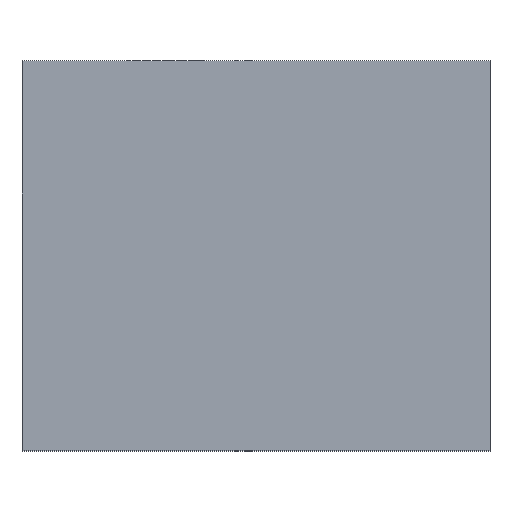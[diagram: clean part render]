
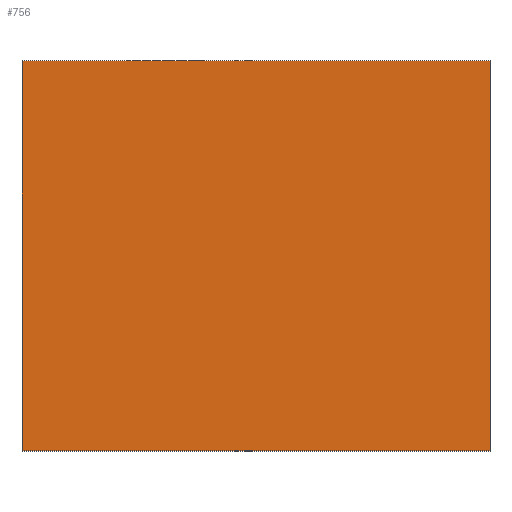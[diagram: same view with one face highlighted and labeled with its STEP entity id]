
A CAD part, top view. The second image highlights one B-rep face of the part: STEP entity #756.
In plain terms, the highlighted planar face has unit normal (0, 0, 1).
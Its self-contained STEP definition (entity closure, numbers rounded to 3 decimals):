
#1 = ORIENTED_EDGE ( 'NONE', *, *, #268, .T. ) ;
#2 = LINE ( 'NONE', #103, #117 ) ;
#73 = FACE_OUTER_BOUND ( 'NONE', #770, .T. ) ;
#78 = LINE ( 'NONE', #110, #354 ) ;
#90 = VERTEX_POINT ( 'NONE', #407 ) ;
#103 = CARTESIAN_POINT ( 'NONE',  ( 60., -25., 25. ) ) ;
#109 = VECTOR ( 'NONE', #809, 1000. ) ;
#110 = CARTESIAN_POINT ( 'NONE',  ( 0., -25., 25. ) ) ;
#117 = VECTOR ( 'NONE', #996, 1000. ) ;
#126 = CARTESIAN_POINT ( 'NONE',  ( 60., 25., 25. ) ) ;
#129 = CARTESIAN_POINT ( 'NONE',  ( 60., -25., 25. ) ) ;
#194 = VERTEX_POINT ( 'NONE', #893 ) ;
#207 = EDGE_CURVE ( 'NONE', #969, #194, #414, .T. ) ;
#268 = EDGE_CURVE ( 'NONE', #194, #521, #78, .T. ) ;
#289 = AXIS2_PLACEMENT_3D ( 'NONE', #364, #959, #453 ) ;
#294 = CARTESIAN_POINT ( 'NONE',  ( 60., 25., 25. ) ) ;
#354 = VECTOR ( 'NONE', #721, 1000. ) ;
#364 = CARTESIAN_POINT ( 'NONE',  ( 60., -25., 25. ) ) ;
#407 = CARTESIAN_POINT ( 'NONE',  ( 60., -25., 25. ) ) ;
#414 = LINE ( 'NONE', #294, #109 ) ;
#429 = ORIENTED_EDGE ( 'NONE', *, *, #207, .T. ) ;
#436 = CARTESIAN_POINT ( 'NONE',  ( 0., -25., 25. ) ) ;
#451 = EDGE_CURVE ( 'NONE', #969, #90, #712, .T. ) ;
#453 = DIRECTION ( 'NONE',  ( -1., 0., 0. ) ) ;
#521 = VERTEX_POINT ( 'NONE', #436 ) ;
#656 = ORIENTED_EDGE ( 'NONE', *, *, #1042, .F. ) ;
#712 = LINE ( 'NONE', #129, #1128 ) ;
#721 = DIRECTION ( 'NONE',  ( 0., -1., 0. ) ) ;
#756 = ADVANCED_FACE ( 'NONE', ( #73 ), #829, .F. ) ;
#770 = EDGE_LOOP ( 'NONE', ( #1, #656, #1037, #429 ) ) ;
#809 = DIRECTION ( 'NONE',  ( -1., 0., 0. ) ) ;
#828 = DIRECTION ( 'NONE',  ( 0., -1., 0. ) ) ;
#829 = PLANE ( 'NONE',  #289 ) ;
#893 = CARTESIAN_POINT ( 'NONE',  ( 0., 25., 25. ) ) ;
#959 = DIRECTION ( 'NONE',  ( 0., 0., -1. ) ) ;
#969 = VERTEX_POINT ( 'NONE', #126 ) ;
#996 = DIRECTION ( 'NONE',  ( -1., 0., 0. ) ) ;
#1037 = ORIENTED_EDGE ( 'NONE', *, *, #451, .F. ) ;
#1042 = EDGE_CURVE ( 'NONE', #90, #521, #2, .T. ) ;
#1128 = VECTOR ( 'NONE', #828, 1000. ) ;
